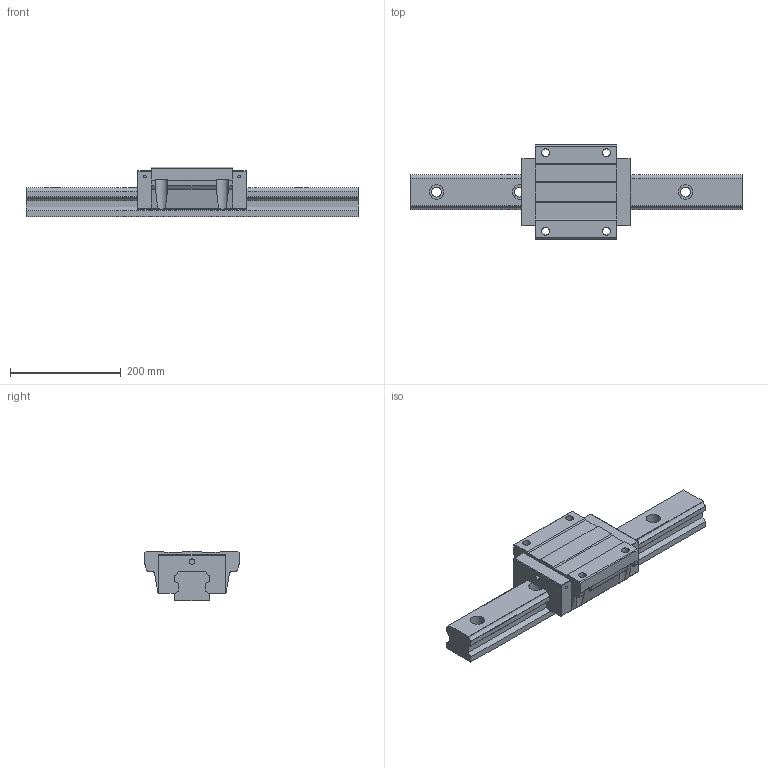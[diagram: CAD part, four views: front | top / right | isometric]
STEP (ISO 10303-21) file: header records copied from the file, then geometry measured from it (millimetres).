
FILE_DESCRIPTION (( 'STEP AP203' ), '1' );
FILE_NAME ('TRH65FL-XN.STEP', '2024-05-14T03:52:22', ( '' ), ( '' ), 'SwSTEP 2.0', 'SolidWorks 2022', '' );
FILE_SCHEMA (( 'CONFIG_CONTROL_DESIGN' ));
Length unit declared in the file: millimetre
Products named in the file (1): TRH65FL-XN
Bounding box: 600 x 170 x 90 mm (x, y, z)
Volume: 3194864.3 mm3; surface area: 294573.6 mm2
Topology: 2 solids, 2 shells, 222 faces, 616 edges, 404 vertices
Faces by surface type: plane 120, cylinder 98, sphere 4
Entity records: 7342 total; most frequent: CARTESIAN_POINT 1460, ORIENTED_EDGE 1224, DIRECTION 1220, EDGE_CURVE 612, AXIS2_PLACEMENT_3D 415, VERTEX_POINT 404, VECTOR 390, LINE 390
